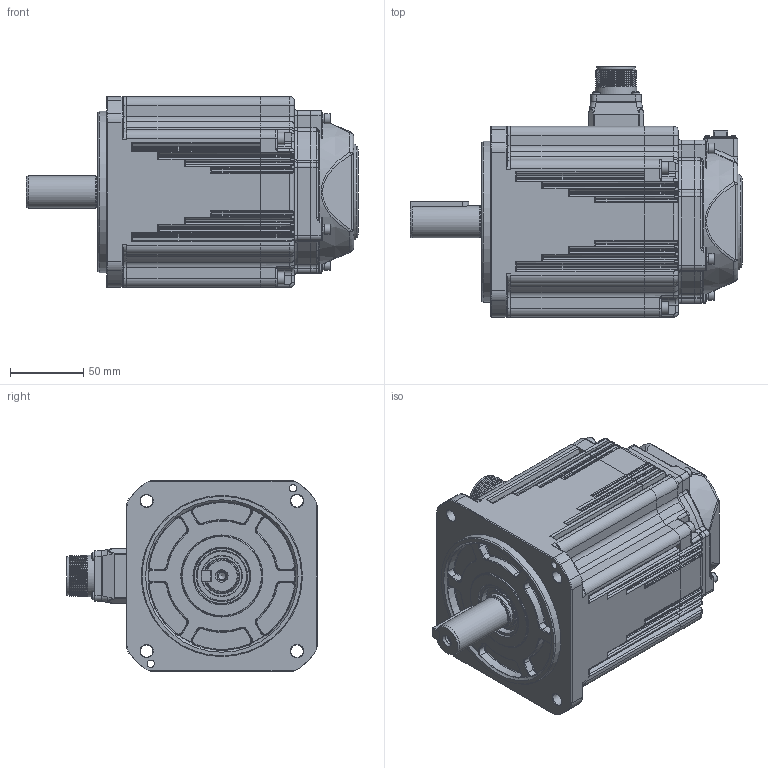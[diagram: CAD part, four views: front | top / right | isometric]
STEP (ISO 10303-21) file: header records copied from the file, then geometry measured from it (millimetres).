
FILE_DESCRIPTION (( 'STEP AP203' ), '1' );
FILE_NAME ('俋倛芞ACM1M-1313B.STEP', '2023-01-10T02:17:24', ( '' ), ( '' ), 'SwSTEP 2.0', 'SolidWorks 2021', '' );
FILE_SCHEMA (( 'CONFIG_CONTROL_DESIGN' ));
Length unit declared in the file: millimetre
Products named in the file (13): C型平键8×7×45螺纹拆卸型; 130前端盖0.85、1.3、1.8_成品-1.3; 綴傷裔蹟隊_M5℅20; 晤鎢裔蹟隊; 俋倛芞ACM1M-1313B; 130蛌粣09-XX 粣扥耳22 40Cr DC RoHS_LX晤鎢ん; 1M晤鎢脣釱+蹟隊; 萇埭脣釱蹟隊_M3℅10; 130晤鎢ん裔1M; ﾓﾍｷ筌ｻTC｣ｻ24｡ﾁ38｡ﾁ7｣ｻSOG; 航插动力接插件 4芯 SZ RoHS_6芯; 130价陬綴傷裔 詢39.3 ADC12 LM RoHS_傖こ; 130瑤脣假蚾釱
Assembly tree (21 placements, depth 2):
  俋倛芞ACM1M-1313B
    130前端盖0.85、1.3、1.8_成品-1.3
    130蛌粣09-XX 粣扥耳22 40Cr DC RoHS_LX晤鎢ん
    130价陬綴傷裔 詢39.3 ADC12 LM RoHS_傖こ
    130晤鎢ん裔1M
    綴傷裔蹟隊_M5℅20  x4
    晤鎢裔蹟隊  x4
    130瑤脣假蚾釱
    1M晤鎢脣釱+蹟隊
    航插动力接插件 4芯 SZ RoHS_6芯
    萇埭脣釱蹟隊_M3℅10  x4
    ﾓﾍｷ筌ｻTC｣ｻ24｡ﾁ38｡ﾁ7｣ｻSOG
    C型平键8×7×45螺纹拆卸型
Bounding box: 226.5 x 170.7 x 130 mm (x, y, z)
Volume: 2400497.8 mm3; surface area: 216440.7 mm2
Topology: 33 solids, 45 shells, 3415 faces, 8737 edges, 5409 vertices
Faces by surface type: plane 1473, cylinder 973, torus 463, bspline 412, cone 83, sphere 11
Full cylindrical faces by diameter (mm): 1.5 x6, 1.6 x10, 1.68 x2, 2.2 x1, 2.4 x4, 2.48 x4, 2.5 x4, 2.598 x4, 2.6 x1, 2.8 x4, 3 x4, 3.2 x6, 3.3 x5, 3.5 x4, 3.9 x4, 4 x4, 4.2 x4, 4.5 x8, 5 x7, 5.5 x4, 5.6 x4, 6.4 x1, 7 x4, 8.5 x8, 9 x4, 21.7 x1, 22 x1, 23.7 x1, 24 x1, 26.5 x1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
Entity records: 129273 total; most frequent: CARTESIAN_POINT 54043, ORIENTED_EDGE 15710, DIRECTION 14671, EDGE_CURVE 7855, AXIS2_PLACEMENT_3D 5350, VERTEX_POINT 5028, LINE 3971, VECTOR 3971
